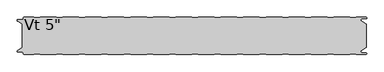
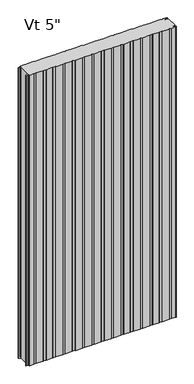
"""IFC4 building model written with IfcOpenShell, lengths in millimetres: plate geometry."""

from ifc_helpers import new_model, si_unit, frame, origin, place, context, project, spatial, polyline, circle_curve, source, transform, mapped, element, save
from ifc_brep_helpers import plane_surface, cylinder_surface, revolved_surface, advanced_brep


def plate_b4f12861(model_context):
    return source(origin(), model_context, "Body", "AdvancedBrep", [
        advanced_brep(
        [(521.5205195, -124.8088405, 2400.0), (541.3035142, -124.8088405, 2400.0), (542.3760351, -125.9999956, 2400.0), (574.5475652, -125.9999956, 2400.0), (576.5248337, -124.0227271, 2400.0), (576.5248337, -122.9806285, 2400.0), (574.5475652, -121.00336, 2400.0), (560.3591802, -121.00336, 2400.0), (557.7713036, -118.4154835, 2400.0), (557.7713036, -114.0950653, 2400.0), (557.1628365, -113.5060718, 2400.0), (554.7857432, -113.5060718, 2400.0), (554.7857432, -112.5065979, 2400.0), (560.2280123, -112.5065979, 2400.0), (576.2625, -103.2490821, 2400.0), (576.2625, -23.7509179, 2400.0), (560.2280123, -14.4934021, 2400.0), (554.7857432, -14.4934021, 2400.0), (554.7857432, -13.4939282, 2400.0), (557.1628365, -13.4939282, 2400.0), (557.7713036, -12.9049347, 2400.0), (557.7713036, -8.5845165, 2400.0), (560.3591802, -5.99664, 2400.0), (574.5475652, -5.99664, 2400.0), (576.5248337, -4.0193715, 2400.0), (576.5248337, -2.9772729, 2400.0), (574.5475652, -1.0000044, 2400.0), (542.3760351, -1.0000044, 2400.0), (541.3035142, -2.1911595, 2400.0), (521.5205195, -2.1911595, 2400.0), (520.4479947, -1.0, 2400.0), (466.7534187, -1.0, 2400.0), (465.6808939, -2.1911595, 2400.0), (445.8978992, -2.1911595, 2400.0), (444.8253744, -1.0, 2400.0), (391.1307985, -1.0, 2400.0), (390.0582736, -2.1911595, 2400.0), (370.275279, -2.1911595, 2400.0), (369.2027541, -1.0, 2400.0), (315.5081782, -1.0, 2400.0), (314.4356534, -2.1911595, 2400.0), (294.6526587, -2.1911595, 2400.0), (293.5801339, -1.0, 2400.0), (239.885558, -1.0, 2400.0), (238.8130331, -2.1911595, 2400.0), (219.0300384, -2.1911595, 2400.0), (217.9575136, -1.0, 2400.0), (164.2629377, -1.0, 2400.0), (163.1904129, -2.1911595, 2400.0), (143.4074182, -2.1911595, 2400.0), (142.3348933, -1.0, 2400.0), (88.6403174, -1.0, 2400.0), (87.5677926, -2.1911595, 2400.0), (67.7847979, -2.1911595, 2400.0), (66.7122731, -1.0, 2400.0), (13.0176972, -1.0, 2400.0), (11.9451723, -2.1911595, 2400.0), (-7.8378224, -2.1911595, 2400.0), (-8.9103472, -1.0, 2400.0), (-62.6049231, -1.0, 2400.0), (-63.6774479, -2.1911595, 2400.0), (-83.4604426, -2.1911595, 2400.0), (-84.5329675, -1.0, 2400.0), (-138.2275434, -1.0, 2400.0), (-139.3000682, -2.1911595, 2400.0), (-159.0830629, -2.1911595, 2400.0), (-160.1555877, -1.0, 2400.0), (-213.8501636, -1.0, 2400.0), (-214.9226885, -2.1911595, 2400.0), (-234.7056831, -2.1911595, 2400.0), (-235.778208, -1.0, 2400.0), (-289.4727839, -1.0, 2400.0), (-290.5453087, -2.1911595, 2400.0), (-310.3283034, -2.1911595, 2400.0), (-311.4008282, -1.0, 2400.0), (-365.0954042, -1.0, 2400.0), (-366.167929, -2.1911595, 2400.0), (-385.9509237, -2.1911595, 2400.0), (-387.0234485, -1.0, 2400.0), (-440.7180244, -1.0, 2400.0), (-441.7905493, -2.1911595, 2400.0), (-461.5735439, -2.1911595, 2400.0), (-462.6460688, -1.0, 2400.0), (-516.3406447, -1.0, 2400.0), (-517.4131695, -2.1911595, 2400.0), (-537.1961642, -2.1911595, 2400.0), (-538.268689, -1.0000109, 2400.0), (-570.4352761, -1.0000109, 2400.0), (-572.4125501, -2.9772849, 2400.0), (-572.4125501, -5.2691749, 2400.0), (-576.3898173, -9.246442, 2400.0), (-591.9862417, -9.246442, 2400.0), (-592.5741186, -9.8343189, 2400.0), (-592.5741186, -12.9058679, 2400.0), (-591.986242, -13.4937446, 2400.0), (-589.6312064, -13.4937446, 2400.0), (-589.6312064, -14.4937446, 2400.0), (-591.9207851, -14.4937446, 2400.0), (-576.2625, -23.7509179, 2400.0), (-576.2625, -103.2490865, 2400.0), (-591.9207851, -112.5062554, 2400.0), (-589.6312064, -112.5062554, 2400.0), (-589.6312064, -113.5062554, 2400.0), (-591.986242, -113.5062554, 2400.0), (-592.5741186, -114.0941321, 2400.0), (-592.5741186, -117.1656811, 2400.0), (-591.9862417, -117.753558, 2400.0), (-576.3898173, -117.753558, 2400.0), (-572.4125501, -121.7308251, 2400.0), (-572.4125501, -124.0227151, 2400.0), (-570.4352761, -125.9999891, 2400.0), (-538.268689, -125.9999891, 2400.0), (-537.1961642, -124.8088405, 2400.0), (-517.4131695, -124.8088405, 2400.0), (-516.3406447, -126.0, 2400.0), (-462.6460688, -126.0, 2400.0), (-461.5735439, -124.8088405, 2400.0), (-441.7905493, -124.8088405, 2400.0), (-440.7180244, -126.0, 2400.0), (-387.0234485, -126.0, 2400.0), (-385.9509237, -124.8088405, 2400.0), (-366.167929, -124.8088405, 2400.0), (-365.0954042, -126.0, 2400.0), (-311.4008282, -126.0, 2400.0), (-310.3283034, -124.8088405, 2400.0), (-290.5453087, -124.8088405, 2400.0), (-289.4727839, -126.0, 2400.0), (-235.778208, -126.0, 2400.0), (-234.7056831, -124.8088405, 2400.0), (-214.9226885, -124.8088405, 2400.0), (-213.8501636, -126.0, 2400.0), (-160.1555877, -126.0, 2400.0), (-159.0830629, -124.8088405, 2400.0), (-139.3000682, -124.8088405, 2400.0), (-138.2275434, -126.0, 2400.0), (-84.5329675, -126.0, 2400.0), (-83.4604426, -124.8088405, 2400.0), (-63.6774479, -124.8088405, 2400.0), (-62.6049231, -126.0, 2400.0), (-8.9103472, -126.0, 2400.0), (-7.8378224, -124.8088405, 2400.0), (11.9451723, -124.8088405, 2400.0), (13.0176972, -126.0, 2400.0), (66.7122731, -126.0, 2400.0), (67.7847979, -124.8088405, 2400.0), (87.5677926, -124.8088405, 2400.0), (88.6403174, -126.0, 2400.0), (142.3348933, -126.0, 2400.0), (143.4074182, -124.8088405, 2400.0), (163.1904129, -124.8088405, 2400.0), (164.2629377, -126.0, 2400.0), (217.9575136, -126.0, 2400.0), (219.0300384, -124.8088405, 2400.0), (238.8130331, -124.8088405, 2400.0), (239.885558, -126.0, 2400.0), (293.5801339, -126.0, 2400.0), (294.6526587, -124.8088405, 2400.0), (314.4356534, -124.8088405, 2400.0), (315.5081782, -126.0, 2400.0), (369.2027541, -126.0, 2400.0), (370.275279, -124.8088405, 2400.0), (390.0582736, -124.8088405, 2400.0), (391.1307985, -126.0, 2400.0), (444.8253744, -126.0, 2400.0), (445.8978992, -124.8088405, 2400.0), (465.6808939, -124.8088405, 2400.0), (466.7534187, -126.0, 2400.0), (520.4479947, -126.0, 2400.0), (521.5205195, -124.8088405, 0.0), (520.4479947, -126.0, 0.0), (466.7534187, -126.0, 0.0), (465.6808939, -124.8088405, 0.0), (445.8978992, -124.8088405, 0.0), (444.8253744, -126.0, 0.0), (391.1307985, -126.0, 0.0), (390.0582736, -124.8088405, 0.0), (370.275279, -124.8088405, 0.0), (369.2027541, -126.0, 0.0), (315.5081782, -126.0, 0.0), (314.4356534, -124.8088405, 0.0), (294.6526587, -124.8088405, 0.0), (293.5801339, -126.0, 0.0), (239.885558, -126.0, 0.0), (238.8130331, -124.8088405, 0.0), (219.0300384, -124.8088405, 0.0), (217.9575136, -126.0, 0.0), (164.2629377, -126.0, 0.0), (163.1904129, -124.8088405, 0.0), (143.4074182, -124.8088405, 0.0), (142.3348933, -126.0, 0.0), (88.6403174, -126.0, 0.0), (87.5677926, -124.8088405, 0.0), (67.7847979, -124.8088405, 0.0), (66.7122731, -126.0, 0.0), (13.0176972, -126.0, 0.0), (11.9451723, -124.8088405, 0.0), (-7.8378224, -124.8088405, 0.0), (-8.9103472, -126.0, 0.0), (-62.6049231, -126.0, 0.0), (-63.6774479, -124.8088405, 0.0), (-83.4604426, -124.8088405, 0.0), (-84.5329675, -126.0, 0.0), (-138.2275434, -126.0, 0.0), (-139.3000682, -124.8088405, 0.0), (-159.0830629, -124.8088405, 0.0), (-160.1555877, -126.0, 0.0), (-213.8501636, -126.0, 0.0), (-214.9226885, -124.8088405, 0.0), (-234.7056831, -124.8088405, 0.0), (-235.778208, -126.0, 0.0), (-289.4727839, -126.0, 0.0), (-290.5453087, -124.8088405, 0.0), (-310.3283034, -124.8088405, 0.0), (-311.4008282, -126.0, 0.0), (-365.0954042, -126.0, 0.0), (-366.167929, -124.8088405, 0.0), (-385.9509237, -124.8088405, 0.0), (-387.0234485, -126.0, 0.0), (-440.7180244, -126.0, 0.0), (-441.7905493, -124.8088405, 0.0), (-461.5735439, -124.8088405, 0.0), (-462.6460688, -126.0, 0.0), (-516.3406447, -126.0, 0.0), (-517.4131695, -124.8088405, 0.0), (-537.1961642, -124.8088405, 0.0), (-538.268689, -125.9999891, 0.0), (-570.4352761, -125.9999891, 0.0), (-572.4125501, -124.0227151, 0.0), (-572.4125501, -121.7308251, 0.0), (-576.3898173, -117.753558, 0.0), (-591.9862417, -117.753558, 0.0), (-592.5741186, -117.1656811, 0.0), (-592.5741186, -114.0941321, 0.0), (-591.986242, -113.5062554, 0.0), (-589.6312064, -113.5062554, 0.0), (-589.6312064, -112.5062554, 0.0), (-591.9207851, -112.5062554, 0.0), (-576.2625, -103.2490821, 0.0), (-576.2625, -23.7509179, 0.0), (-591.9207851, -14.4937446, 0.0), (-589.6312064, -14.4937446, 0.0), (-589.6312064, -13.4937446, 0.0), (-591.986242, -13.4937446, 0.0), (-592.5741186, -12.9058679, 0.0), (-592.5741186, -9.8343189, 0.0), (-591.9862417, -9.246442, 0.0), (-576.3898173, -9.246442, 0.0), (-572.4125501, -5.2691749, 0.0), (-572.4125501, -2.9772849, 0.0), (-570.4352761, -1.0000109, 0.0), (-538.268689, -1.0000109, 0.0), (-537.1961642, -2.1911595, 0.0), (-517.4131695, -2.1911595, 0.0), (-516.3406447, -1.0, 0.0), (-462.6460688, -1.0, 0.0), (-461.5735439, -2.1911595, 0.0), (-441.7905493, -2.1911595, 0.0), (-440.7180244, -1.0, 0.0), (-387.0234485, -1.0, 0.0), (-385.9509237, -2.1911595, 0.0), (-366.167929, -2.1911595, 0.0), (-365.0954042, -1.0, 0.0), (-311.4008282, -1.0, 0.0), (-310.3283034, -2.1911595, 0.0), (-290.5453087, -2.1911595, 0.0), (-289.4727839, -1.0, 0.0), (-235.778208, -1.0, 0.0), (-234.7056831, -2.1911595, 0.0), (-214.9226885, -2.1911595, 0.0), (-213.8501636, -1.0, 0.0), (-160.1555877, -1.0, 0.0), (-159.0830629, -2.1911595, 0.0), (-139.3000682, -2.1911595, 0.0), (-138.2275434, -1.0, 0.0), (-84.5329675, -1.0, 0.0), (-83.4604426, -2.1911595, 0.0), (-63.6774479, -2.1911595, 0.0), (-62.6049231, -1.0, 0.0), (-8.9103472, -1.0, 0.0), (-7.8378224, -2.1911595, 0.0), (11.9451723, -2.1911595, 0.0), (13.0176972, -1.0, 0.0), (66.7122731, -1.0, 0.0), (67.7847979, -2.1911595, 0.0), (87.5677926, -2.1911595, 0.0), (88.6403174, -1.0, 0.0), (142.3348933, -1.0, 0.0), (143.4074182, -2.1911595, 0.0), (163.1904129, -2.1911595, 0.0), (164.2629377, -1.0, 0.0), (217.9575136, -1.0, 0.0), (219.0300384, -2.1911595, 0.0), (238.8130331, -2.1911595, 0.0), (239.885558, -1.0, 0.0), (293.5801339, -1.0, 0.0), (294.6526587, -2.1911595, 0.0), (314.4356534, -2.1911595, 0.0), (315.5081782, -1.0, 0.0), (369.2027541, -1.0, 0.0), (370.275279, -2.1911595, 0.0), (390.0582736, -2.1911595, 0.0), (391.1307985, -1.0, 0.0), (444.8253744, -1.0, 0.0), (445.8978992, -2.1911595, 0.0), (465.6808939, -2.1911595, 0.0), (466.7534187, -1.0, 0.0), (520.4479947, -1.0, 0.0), (521.5205195, -2.1911595, 0.0), (541.3035142, -2.1911595, 0.0), (542.3760351, -1.0000044, 0.0), (574.5475652, -1.0000044, 0.0), (576.5248337, -2.9772729, 0.0), (576.5248337, -4.0193715, 0.0), (574.5475652, -5.99664, 0.0), (560.3591802, -5.99664, 0.0), (557.7713036, -8.5845165, 0.0), (557.7713036, -12.9049347, 0.0), (557.1628365, -13.4939282, 0.0), (554.7857432, -13.4939282, 0.0), (554.7857432, -14.4934021, 0.0), (560.2280123, -14.4934021, 0.0), (576.2625, -23.7509179, 0.0), (576.2625, -103.2490865, 0.0), (560.2280123, -112.5065979, 0.0), (554.7857432, -112.5065979, 0.0), (554.7857432, -113.5060718, 0.0), (557.1628365, -113.5060718, 0.0), (557.7713036, -114.0950653, 0.0), (557.7713036, -118.4154835, 0.0), (560.3591802, -121.00336, 0.0), (574.5475652, -121.00336, 0.0), (576.5248337, -122.9806285, 0.0), (576.5248337, -124.0227271, 0.0), (574.5475652, -125.9999956, 0.0), (542.3760351, -125.9999956, 0.0), (541.3035142, -124.8088405, 0.0)],
        [
            (0, 1),
            (1, 2),
            (2, 3),
            (3, 4, circle_curve(frame((574.5475652, -124.0227271, 2400.0), z_axis=(0.0, 0.0, 1.0), x_axis=(-1.0, 0.0, 0.0)), 1.9772685)),
            (4, 5),
            (5, 6, circle_curve(frame((574.5475652, -122.9806285, 2400.0), z_axis=(0.0, 0.0, 1.0), x_axis=(-1.0, 0.0, 0.0)), 1.9772685)),
            (6, 7),
            (7, 8, circle_curve(frame((560.3591802, -118.4154835, 2400.0), z_axis=(0.0, 0.0, -1.0), x_axis=(-1.0, 0.0, 0.0)), 2.5878765)),
            (8, 9),
            (9, 10, circle_curve(frame((557.1819985, -114.0950653, 2400.0), z_axis=(0.0, 0.0, 1.0), x_axis=(-1.0, 0.0, 0.0)), 0.5893051)),
            (10, 11),
            (11, 12),
            (12, 13),
            (13, 14),
            (14, 15),
            (15, 16),
            (16, 17),
            (17, 18),
            (18, 19),
            (19, 20, circle_curve(frame((557.1819985, -12.9049347, 2400.0), z_axis=(0.0, 0.0, 1.0), x_axis=(0.0, 1.0, 0.0)), 0.5893051)),
            (20, 21),
            (21, 22, circle_curve(frame((560.3591802, -8.5845165, 2400.0), z_axis=(0.0, 0.0, -1.0), x_axis=(0.0, 1.0, 0.0)), 2.5878765)),
            (22, 23),
            (23, 24, circle_curve(frame((574.5475652, -4.0193715, 2400.0), z_axis=(0.0, 0.0, 1.0), x_axis=(0.0, 1.0, 0.0)), 1.9772685)),
            (24, 25),
            (25, 26, circle_curve(frame((574.5475652, -2.9772729, 2400.0), z_axis=(0.0, 0.0, 1.0), x_axis=(0.0, 1.0, 0.0)), 1.9772685)),
            (26, 27),
            (27, 28),
            (28, 29),
            (29, 30),
            (30, 31),
            (31, 32),
            (32, 33),
            (33, 34),
            (34, 35),
            (35, 36),
            (36, 37),
            (37, 38),
            (38, 39),
            (39, 40),
            (40, 41),
            (41, 42),
            (42, 43),
            (43, 44),
            (44, 45),
            (45, 46),
            (46, 47),
            (47, 48),
            (48, 49),
            (49, 50),
            (50, 51),
            (51, 52),
            (52, 53),
            (53, 54),
            (54, 55),
            (55, 56),
            (56, 57),
            (57, 58),
            (58, 59),
            (59, 60),
            (60, 61),
            (61, 62),
            (62, 63),
            (63, 64),
            (64, 65),
            (65, 66),
            (66, 67),
            (67, 68),
            (68, 69),
            (69, 70),
            (70, 71),
            (71, 72),
            (72, 73),
            (73, 74),
            (74, 75),
            (75, 76),
            (76, 77),
            (77, 78),
            (78, 79),
            (79, 80),
            (80, 81),
            (81, 82),
            (82, 83),
            (83, 84),
            (84, 85),
            (85, 86),
            (86, 87),
            (87, 88, circle_curve(frame((-570.4352761, -2.9772849, 2400.0), z_axis=(0.0, 0.0, 1.0), x_axis=(0.0, 1.0, 0.0)), 1.977274)),
            (88, 89),
            (89, 90, circle_curve(frame((-576.3898173, -5.2691749, 2400.0), z_axis=(0.0, 0.0, -1.0), x_axis=(0.0, 1.0, 0.0)), 3.9772671)),
            (90, 91),
            (91, 92, circle_curve(frame((-591.9862417, -9.8343189, 2400.0), z_axis=(0.0, 0.0, 1.0), x_axis=(0.0, 1.0, 0.0)), 0.5878769)),
            (92, 93),
            (93, 94, circle_curve(frame((-591.986242, -12.9058679, 2400.0), z_axis=(0.0, 0.0, 1.0), x_axis=(0.0, 1.0, 0.0)), 0.5878766)),
            (94, 95),
            (95, 96),
            (96, 97),
            (97, 98),
            (98, 99),
            (99, 100),
            (100, 101),
            (101, 102),
            (102, 103),
            (103, 104, circle_curve(frame((-591.986242, -114.0941321, 2400.0), z_axis=(0.0, 0.0, 1.0), x_axis=(-1.0, 0.0, 0.0)), 0.5878766)),
            (104, 105),
            (105, 106, circle_curve(frame((-591.9862417, -117.1656811, 2400.0), z_axis=(0.0, 0.0, 1.0), x_axis=(-1.0, 0.0, 0.0)), 0.5878769)),
            (106, 107),
            (107, 108, circle_curve(frame((-576.3898173, -121.7308251, 2400.0), z_axis=(0.0, 0.0, -1.0), x_axis=(-1.0, 0.0, 0.0)), 3.9772671)),
            (108, 109),
            (109, 110, circle_curve(frame((-570.4352761, -124.0227151, 2400.0), z_axis=(0.0, 0.0, 1.0), x_axis=(-1.0, 0.0, 0.0)), 1.977274)),
            (110, 111),
            (111, 112),
            (112, 113),
            (113, 114),
            (114, 115),
            (115, 116),
            (116, 117),
            (117, 118),
            (118, 119),
            (119, 120),
            (120, 121),
            (121, 122),
            (122, 123),
            (123, 124),
            (124, 125),
            (125, 126),
            (126, 127),
            (127, 128),
            (128, 129),
            (129, 130),
            (130, 131),
            (131, 132),
            (132, 133),
            (133, 134),
            (134, 135),
            (135, 136),
            (136, 137),
            (137, 138),
            (138, 139),
            (139, 140),
            (140, 141),
            (141, 142),
            (142, 143),
            (143, 144),
            (144, 145),
            (145, 146),
            (146, 147),
            (147, 148),
            (148, 149),
            (149, 150),
            (150, 151),
            (151, 152),
            (152, 153),
            (153, 154),
            (154, 155),
            (155, 156),
            (156, 157),
            (157, 158),
            (158, 159),
            (159, 160),
            (160, 161),
            (161, 162),
            (162, 163),
            (163, 164),
            (164, 165),
            (165, 166),
            (166, 167),
            (167, 0),
            (168, 169),
            (169, 170),
            (170, 171),
            (171, 172),
            (172, 173),
            (173, 174),
            (174, 175),
            (175, 176),
            (176, 177),
            (177, 178),
            (178, 179),
            (179, 180),
            (180, 181),
            (181, 182),
            (182, 183),
            (183, 184),
            (184, 185),
            (185, 186),
            (186, 187),
            (187, 188),
            (188, 189),
            (189, 190),
            (190, 191),
            (191, 192),
            (192, 193),
            (193, 194),
            (194, 195),
            (195, 196),
            (196, 197),
            (197, 198),
            (198, 199),
            (199, 200),
            (200, 201),
            (201, 202),
            (202, 203),
            (203, 204),
            (204, 205),
            (205, 206),
            (206, 207),
            (207, 208),
            (208, 209),
            (209, 210),
            (210, 211),
            (211, 212),
            (212, 213),
            (213, 214),
            (214, 215),
            (215, 216),
            (216, 217),
            (217, 218),
            (218, 219),
            (219, 220),
            (220, 221),
            (221, 222),
            (222, 223),
            (223, 224),
            (224, 225),
            (225, 226),
            (226, 227, circle_curve(frame((-570.4352761, -124.0227151, 0.0), z_axis=(0.0, 0.0, -1.0), x_axis=(-1.0, 0.0, 0.0)), 1.977274)),
            (227, 228),
            (228, 229, circle_curve(frame((-576.3898173, -121.7308251, 0.0), z_axis=(0.0, 0.0, 1.0), x_axis=(-1.0, 0.0, 0.0)), 3.9772671)),
            (229, 230),
            (230, 231, circle_curve(frame((-591.9862417, -117.1656811, 0.0), z_axis=(0.0, 0.0, -1.0), x_axis=(-1.0, 0.0, 0.0)), 0.5878769)),
            (231, 232),
            (232, 233, circle_curve(frame((-591.986242, -114.0941321, 0.0), z_axis=(0.0, 0.0, -1.0), x_axis=(-1.0, 0.0, 0.0)), 0.5878766)),
            (233, 234),
            (234, 235),
            (235, 236),
            (236, 237),
            (237, 238),
            (238, 239),
            (239, 240),
            (240, 241),
            (241, 242),
            (242, 243, circle_curve(frame((-591.986242, -12.9058679, 0.0), z_axis=(0.0, 0.0, -1.0), x_axis=(0.0, 1.0, 0.0)), 0.5878766)),
            (243, 244),
            (244, 245, circle_curve(frame((-591.9862417, -9.8343189, 0.0), z_axis=(0.0, 0.0, -1.0), x_axis=(0.0, 1.0, 0.0)), 0.5878769)),
            (245, 246),
            (246, 247, circle_curve(frame((-576.3898173, -5.2691749, 0.0), z_axis=(0.0, 0.0, 1.0), x_axis=(0.0, 1.0, 0.0)), 3.9772671)),
            (247, 248),
            (248, 249, circle_curve(frame((-570.4352761, -2.9772849, 0.0), z_axis=(0.0, 0.0, -1.0), x_axis=(0.0, 1.0, 0.0)), 1.977274)),
            (249, 250),
            (250, 251),
            (251, 252),
            (252, 253),
            (253, 254),
            (254, 255),
            (255, 256),
            (256, 257),
            (257, 258),
            (258, 259),
            (259, 260),
            (260, 261),
            (261, 262),
            (262, 263),
            (263, 264),
            (264, 265),
            (265, 266),
            (266, 267),
            (267, 268),
            (268, 269),
            (269, 270),
            (270, 271),
            (271, 272),
            (272, 273),
            (273, 274),
            (274, 275),
            (275, 276),
            (276, 277),
            (277, 278),
            (278, 279),
            (279, 280),
            (280, 281),
            (281, 282),
            (282, 283),
            (283, 284),
            (284, 285),
            (285, 286),
            (286, 287),
            (287, 288),
            (288, 289),
            (289, 290),
            (290, 291),
            (291, 292),
            (292, 293),
            (293, 294),
            (294, 295),
            (295, 296),
            (296, 297),
            (297, 298),
            (298, 299),
            (299, 300),
            (300, 301),
            (301, 302),
            (302, 303),
            (303, 304),
            (304, 305),
            (305, 306),
            (306, 307),
            (307, 308),
            (308, 309),
            (309, 310),
            (310, 311, circle_curve(frame((574.5475652, -2.9772729, 0.0), z_axis=(0.0, 0.0, -1.0), x_axis=(0.0, 1.0, 0.0)), 1.9772685)),
            (311, 312),
            (312, 313, circle_curve(frame((574.5475652, -4.0193715, 0.0), z_axis=(0.0, 0.0, -1.0), x_axis=(0.0, 1.0, 0.0)), 1.9772685)),
            (313, 314),
            (314, 315, circle_curve(frame((560.3591802, -8.5845165, 0.0), z_axis=(0.0, 0.0, 1.0), x_axis=(0.0, 1.0, 0.0)), 2.5878765)),
            (315, 316),
            (316, 317, circle_curve(frame((557.1819985, -12.9049347, 0.0), z_axis=(0.0, 0.0, -1.0), x_axis=(0.0, 1.0, 0.0)), 0.5893051)),
            (317, 318),
            (318, 319),
            (319, 320),
            (320, 321),
            (321, 322),
            (322, 323),
            (323, 324),
            (324, 325),
            (325, 326),
            (326, 327, circle_curve(frame((557.1819985, -114.0950653, 0.0), z_axis=(0.0, 0.0, -1.0), x_axis=(-1.0, 0.0, 0.0)), 0.5893051)),
            (327, 328),
            (328, 329, circle_curve(frame((560.3591802, -118.4154835, 0.0), z_axis=(0.0, 0.0, 1.0), x_axis=(-1.0, 0.0, 0.0)), 2.5878765)),
            (329, 330),
            (330, 331, circle_curve(frame((574.5475652, -122.9806285, 0.0), z_axis=(0.0, 0.0, -1.0), x_axis=(-1.0, 0.0, 0.0)), 1.9772685)),
            (331, 332),
            (332, 333, circle_curve(frame((574.5475652, -124.0227271, 0.0), z_axis=(0.0, 0.0, -1.0), x_axis=(-1.0, 0.0, 0.0)), 1.9772685)),
            (333, 334),
            (334, 335),
            (335, 168),
            (98, 238),
            (237, 99),
            (14, 322),
            (321, 15),
            (28, 308),
            (307, 29),
            (27, 309),
            (26, 310),
            (25, 311),
            (24, 312),
            (23, 313),
            (22, 314),
            (21, 315),
            (20, 316),
            (19, 317),
            (18, 318),
            (17, 319),
            (16, 320),
            (97, 239),
            (96, 240),
            (95, 241),
            (94, 242),
            (93, 243),
            (92, 244),
            (91, 245),
            (90, 246),
            (89, 247),
            (88, 248),
            (87, 249),
            (86, 250),
            (85, 251),
            (84, 252),
            (83, 253),
            (82, 254),
            (81, 255),
            (80, 256),
            (79, 257),
            (78, 258),
            (77, 259),
            (76, 260),
            (75, 261),
            (74, 262),
            (73, 263),
            (72, 264),
            (71, 265),
            (70, 266),
            (69, 267),
            (68, 268),
            (67, 269),
            (66, 270),
            (65, 271),
            (64, 272),
            (63, 273),
            (62, 274),
            (61, 275),
            (60, 276),
            (59, 277),
            (58, 278),
            (57, 279),
            (56, 280),
            (55, 281),
            (54, 282),
            (53, 283),
            (52, 284),
            (51, 285),
            (50, 286),
            (49, 287),
            (48, 288),
            (47, 289),
            (46, 290),
            (45, 291),
            (44, 292),
            (43, 293),
            (42, 294),
            (41, 295),
            (40, 296),
            (39, 297),
            (38, 298),
            (37, 299),
            (36, 300),
            (35, 301),
            (34, 302),
            (33, 303),
            (32, 304),
            (31, 305),
            (30, 306),
            (167, 169),
            (168, 0),
            (166, 170),
            (165, 171),
            (164, 172),
            (163, 173),
            (162, 174),
            (161, 175),
            (160, 176),
            (159, 177),
            (158, 178),
            (157, 179),
            (156, 180),
            (155, 181),
            (154, 182),
            (153, 183),
            (152, 184),
            (151, 185),
            (150, 186),
            (149, 187),
            (148, 188),
            (147, 189),
            (146, 190),
            (145, 191),
            (144, 192),
            (143, 193),
            (142, 194),
            (141, 195),
            (140, 196),
            (139, 197),
            (138, 198),
            (137, 199),
            (136, 200),
            (135, 201),
            (134, 202),
            (133, 203),
            (132, 204),
            (131, 205),
            (130, 206),
            (129, 207),
            (128, 208),
            (127, 209),
            (126, 210),
            (125, 211),
            (124, 212),
            (123, 213),
            (122, 214),
            (121, 215),
            (120, 216),
            (119, 217),
            (118, 218),
            (117, 219),
            (116, 220),
            (115, 221),
            (114, 222),
            (113, 223),
            (112, 224),
            (111, 225),
            (110, 226),
            (109, 227),
            (108, 228),
            (107, 229),
            (106, 230),
            (105, 231),
            (104, 232),
            (103, 233),
            (102, 234),
            (101, 235),
            (100, 236),
            (13, 323),
            (12, 324),
            (11, 325),
            (10, 326),
            (9, 327),
            (8, 328),
            (7, 329),
            (6, 330),
            (5, 331),
            (4, 332),
            (3, 333),
            (2, 334),
            (1, 335),
        ],
        [
            plane_surface(frame((0.0, -126.0, 2400.0), z_axis=(0.0, 0.0, 1.0), x_axis=(0.0, -1.0, 0.0))),
            plane_surface(frame((0.0, -126.0, 0.0), z_axis=(0.0, 0.0, -1.0), x_axis=(0.0, -1.0, 0.0))),
            plane_surface(frame((-576.2625, -103.2490865, 2400.0), z_axis=(-1.0, 0.0, 0.0), x_axis=(0.0, 0.0, -1.0))),
            plane_surface(frame((576.2625, -23.7509179, 2400.0), z_axis=(1.0, 0.0, 0.0), x_axis=(0.0, 0.0, -1.0))),
            plane_surface(frame((521.5205195, -2.1911595, 2400.0), z_axis=(0.0, 1.0, 0.0), x_axis=(0.0, 0.0, -1.0))),
            plane_surface(frame((541.3035142, -2.1911595, 2400.0), z_axis=(-0.7431448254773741, 0.6691306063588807, 0.0), x_axis=(0.0, 0.0, -1.0))),
            plane_surface(frame((542.3760351, -1.0000044, 2400.0), z_axis=(0.0, 1.0, 0.0), x_axis=(0.0, 0.0, -1.0))),
            cylinder_surface(frame((574.5475652, -2.9772729, 2400.0), z_axis=(0.0, 0.0, 1.0), x_axis=(0.0, 1.0, 0.0)), 1.9772685),
            plane_surface(frame((576.5248337, -2.9772729, 2400.0), z_axis=(1.0, 0.0, 0.0), x_axis=(0.0, 0.0, -1.0))),
            cylinder_surface(frame((574.5475652, -4.0193715, 2400.0), z_axis=(0.0, 0.0, 1.0), x_axis=(0.0, 1.0, 0.0)), 1.9772685),
            plane_surface(frame((574.5475652, -5.99664, 2400.0), z_axis=(0.0, -1.0, 0.0), x_axis=(0.0, 0.0, -1.0))),
            revolved_surface(polyline([(560.3591802, -5.996639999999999, 0.0), (560.3591802, -5.996639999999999, 2400.0)]), (560.3591802, -8.5845165, 2400.0), (0.0, 0.0, -1.0)),
            plane_surface(frame((557.7713036, -8.5845165, 2400.0), z_axis=(1.0, 0.0, 0.0), x_axis=(0.0, 0.0, -1.0))),
            cylinder_surface(frame((557.1819985, -12.9049347, 2400.0), z_axis=(0.0, 0.0, 1.0), x_axis=(0.0, 1.0, 0.0)), 0.5893051),
            plane_surface(frame((557.1628365, -13.4939282, 2400.0), z_axis=(0.0, -1.0, 0.0), x_axis=(0.0, 0.0, -1.0))),
            plane_surface(frame((554.7857432, -13.4939282, 2400.0), z_axis=(1.0, 0.0, 0.0), x_axis=(0.0, 0.0, -1.0))),
            plane_surface(frame((554.7857432, -14.4934021, 2400.0), z_axis=(0.0, 1.0, 0.0), x_axis=(0.0, 0.0, -1.0))),
            plane_surface(frame((560.2280123, -14.4934021, 2400.0), z_axis=(0.5000000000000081, 0.866025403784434, 0.0), x_axis=(0.0, 0.0, -1.0))),
            plane_surface(frame((-576.2625, -23.7509179, 2400.0), z_axis=(-0.5089147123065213, -0.860816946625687, 0.0), x_axis=(0.0, 0.0, -1.0))),
            plane_surface(frame((-591.9207851, -14.4937446, 2400.0), z_axis=(0.0, 1.0, 0.0), x_axis=(0.0, 0.0, -1.0))),
            plane_surface(frame((-589.6312064, -14.4937446, 2400.0), z_axis=(-1.0, 0.0, 0.0), x_axis=(0.0, 0.0, -1.0))),
            plane_surface(frame((-589.6312064, -13.4937446, 2400.0), z_axis=(0.0, -1.0, 0.0), x_axis=(0.0, 0.0, -1.0))),
            cylinder_surface(frame((-591.986242, -12.9058679, 2400.0), z_axis=(0.0, 0.0, 1.0), x_axis=(0.0, 1.0, 0.0)), 0.5878766),
            plane_surface(frame((-592.5741186, -12.9058679, 2400.0), z_axis=(-1.0, 0.0, 0.0), x_axis=(0.0, 0.0, -1.0))),
            cylinder_surface(frame((-591.9862417, -9.8343189, 2400.0), z_axis=(0.0, 0.0, 1.0), x_axis=(0.0, 1.0, 0.0)), 0.5878769),
            plane_surface(frame((-591.9862417, -9.246442, 2400.0), z_axis=(0.0, 1.0, 0.0), x_axis=(0.0, 0.0, -1.0))),
            revolved_surface(polyline([(-576.3898173, -1.2919078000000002, 0.0), (-576.3898173, -1.2919078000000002, 2400.0)]), (-576.3898173, -5.2691749, 2400.0), (0.0, 0.0, -1.0)),
            plane_surface(frame((-572.4125501, -5.2691749, 2400.0), z_axis=(-1.0, 0.0, 0.0), x_axis=(0.0, 0.0, -1.0))),
            cylinder_surface(frame((-570.4352761, -2.9772849, 2400.0), z_axis=(0.0, 0.0, 1.0), x_axis=(0.0, 1.0, 0.0)), 1.977274),
            plane_surface(frame((-570.4352761, -1.0000109, 2400.0), z_axis=(0.0, 1.0, 0.0), x_axis=(0.0, 0.0, -1.0))),
            plane_surface(frame((-538.268689, -1.0000109, 2400.0), z_axis=(0.7431417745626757, 0.669133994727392, 0.0), x_axis=(0.0, 0.0, -1.0))),
            plane_surface(frame((-537.1961642, -2.1911595, 2400.0), z_axis=(0.0, 1.0, 0.0), x_axis=(0.0, 0.0, -1.0))),
            plane_surface(frame((-517.4131695, -2.1911595, 2400.0), z_axis=(-0.7431448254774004, 0.6691306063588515, 0.0), x_axis=(0.0, 0.0, -1.0))),
            plane_surface(frame((-516.3406447, -1.0, 2400.0), z_axis=(0.0, 1.0, 0.0), x_axis=(0.0, 0.0, -1.0))),
            plane_surface(frame((-462.6460688, -1.0, 2400.0), z_axis=(0.7431448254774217, 0.6691306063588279, 0.0), x_axis=(0.0, 0.0, -1.0))),
            plane_surface(frame((-461.5735439, -2.1911595, 2400.0), z_axis=(0.0, 1.0, 0.0), x_axis=(0.0, 0.0, -1.0))),
            plane_surface(frame((-441.7905493, -2.1911595, 2400.0), z_axis=(-0.7431448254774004, 0.6691306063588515, 0.0), x_axis=(0.0, 0.0, -1.0))),
            plane_surface(frame((-440.7180244, -1.0, 2400.0), z_axis=(0.0, 1.0, 0.0), x_axis=(0.0, 0.0, -1.0))),
            plane_surface(frame((-387.0234485, -1.0, 2400.0), z_axis=(0.7431448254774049, 0.6691306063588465, 0.0), x_axis=(0.0, 0.0, -1.0))),
            plane_surface(frame((-385.9509237, -2.1911595, 2400.0), z_axis=(0.0, 1.0, 0.0), x_axis=(0.0, 0.0, -1.0))),
            plane_surface(frame((-366.167929, -2.1911595, 2400.0), z_axis=(-0.7431448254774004, 0.6691306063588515, 0.0), x_axis=(0.0, 0.0, -1.0))),
            plane_surface(frame((-365.0954042, -1.0, 2400.0), z_axis=(0.0, 1.0, 0.0), x_axis=(0.0, 0.0, -1.0))),
            plane_surface(frame((-311.4008282, -1.0, 2400.0), z_axis=(0.7431448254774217, 0.6691306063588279, 0.0), x_axis=(0.0, 0.0, -1.0))),
            plane_surface(frame((-310.3283034, -2.1911595, 2400.0), z_axis=(0.0, 1.0, 0.0), x_axis=(0.0, 0.0, -1.0))),
            plane_surface(frame((-290.5453087, -2.1911595, 2400.0), z_axis=(-0.7431448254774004, 0.6691306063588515, 0.0), x_axis=(0.0, 0.0, -1.0))),
            plane_surface(frame((-289.4727839, -1.0, 2400.0), z_axis=(0.0, 1.0, 0.0), x_axis=(0.0, 0.0, -1.0))),
            plane_surface(frame((-235.778208, -1.0, 2400.0), z_axis=(0.7431448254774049, 0.6691306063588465, 0.0), x_axis=(0.0, 0.0, -1.0))),
            plane_surface(frame((-234.7056831, -2.1911595, 2400.0), z_axis=(0.0, 1.0, 0.0), x_axis=(0.0, 0.0, -1.0))),
            plane_surface(frame((-214.9226885, -2.1911595, 2400.0), z_axis=(-0.7431448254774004, 0.6691306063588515, 0.0), x_axis=(0.0, 0.0, -1.0))),
            plane_surface(frame((-213.8501636, -1.0, 2400.0), z_axis=(0.0, 1.0, 0.0), x_axis=(0.0, 0.0, -1.0))),
            plane_surface(frame((-160.1555877, -1.0, 2400.0), z_axis=(0.7431448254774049, 0.6691306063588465, 0.0), x_axis=(0.0, 0.0, -1.0))),
            plane_surface(frame((-159.0830629, -2.1911595, 2400.0), z_axis=(0.0, 1.0, 0.0), x_axis=(0.0, 0.0, -1.0))),
            plane_surface(frame((-139.3000682, -2.1911595, 2400.0), z_axis=(-0.7431448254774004, 0.6691306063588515, 0.0), x_axis=(0.0, 0.0, -1.0))),
            plane_surface(frame((-138.2275434, -1.0, 2400.0), z_axis=(0.0, 1.0, 0.0), x_axis=(0.0, 0.0, -1.0))),
            plane_surface(frame((-84.5329675, -1.0, 2400.0), z_axis=(0.7431448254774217, 0.6691306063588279, 0.0), x_axis=(0.0, 0.0, -1.0))),
            plane_surface(frame((-83.4604426, -2.1911595, 2400.0), z_axis=(0.0, 1.0, 0.0), x_axis=(0.0, 0.0, -1.0))),
            plane_surface(frame((-63.6774479, -2.1911595, 2400.0), z_axis=(-0.7431448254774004, 0.6691306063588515, 0.0), x_axis=(0.0, 0.0, -1.0))),
            plane_surface(frame((-62.6049231, -1.0, 2400.0), z_axis=(0.0, 1.0, 0.0), x_axis=(0.0, 0.0, -1.0))),
            plane_surface(frame((-8.9103472, -1.0, 2400.0), z_axis=(0.7431448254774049, 0.6691306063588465, 0.0), x_axis=(0.0, 0.0, -1.0))),
            plane_surface(frame((-7.8378224, -2.1911595, 2400.0), z_axis=(0.0, 1.0, 0.0), x_axis=(0.0, 0.0, -1.0))),
            plane_surface(frame((11.9451723, -2.1911595, 2400.0), z_axis=(-0.7431448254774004, 0.6691306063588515, 0.0), x_axis=(0.0, 0.0, -1.0))),
            plane_surface(frame((13.0176972, -1.0, 2400.0), z_axis=(0.0, 1.0, 0.0), x_axis=(0.0, 0.0, -1.0))),
            plane_surface(frame((66.7122731, -1.0, 2400.0), z_axis=(0.7431448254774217, 0.6691306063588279, 0.0), x_axis=(0.0, 0.0, -1.0))),
            plane_surface(frame((67.7847979, -2.1911595, 2400.0), z_axis=(0.0, 1.0, 0.0), x_axis=(0.0, 0.0, -1.0))),
            plane_surface(frame((87.5677926, -2.1911595, 2400.0), z_axis=(-0.7431448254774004, 0.6691306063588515, 0.0), x_axis=(0.0, 0.0, -1.0))),
            plane_surface(frame((88.6403174, -1.0, 2400.0), z_axis=(0.0, 1.0, 0.0), x_axis=(0.0, 0.0, -1.0))),
            plane_surface(frame((142.3348933, -1.0, 2400.0), z_axis=(0.7431448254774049, 0.6691306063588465, 0.0), x_axis=(0.0, 0.0, -1.0))),
            plane_surface(frame((143.4074182, -2.1911595, 2400.0), z_axis=(0.0, 1.0, 0.0), x_axis=(0.0, 0.0, -1.0))),
            plane_surface(frame((163.1904129, -2.1911595, 2400.0), z_axis=(-0.7431448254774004, 0.6691306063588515, 0.0), x_axis=(0.0, 0.0, -1.0))),
            plane_surface(frame((164.2629377, -1.0, 2400.0), z_axis=(0.0, 1.0, 0.0), x_axis=(0.0, 0.0, -1.0))),
            plane_surface(frame((217.9575136, -1.0, 2400.0), z_axis=(0.7431448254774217, 0.6691306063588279, 0.0), x_axis=(0.0, 0.0, -1.0))),
            plane_surface(frame((219.0300384, -2.1911595, 2400.0), z_axis=(0.0, 1.0, 0.0), x_axis=(0.0, 0.0, -1.0))),
            plane_surface(frame((238.8130331, -2.1911595, 2400.0), z_axis=(-0.7431448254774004, 0.6691306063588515, 0.0), x_axis=(0.0, 0.0, -1.0))),
            plane_surface(frame((239.885558, -1.0, 2400.0), z_axis=(0.0, 1.0, 0.0), x_axis=(0.0, 0.0, -1.0))),
            plane_surface(frame((293.5801339, -1.0, 2400.0), z_axis=(0.7431448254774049, 0.6691306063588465, 0.0), x_axis=(0.0, 0.0, -1.0))),
            plane_surface(frame((294.6526587, -2.1911595, 2400.0), z_axis=(0.0, 1.0, 0.0), x_axis=(0.0, 0.0, -1.0))),
            plane_surface(frame((314.4356534, -2.1911595, 2400.0), z_axis=(-0.7431448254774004, 0.6691306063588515, 0.0), x_axis=(0.0, 0.0, -1.0))),
            plane_surface(frame((315.5081782, -1.0, 2400.0), z_axis=(0.0, 1.0, 0.0), x_axis=(0.0, 0.0, -1.0))),
            plane_surface(frame((369.2027541, -1.0, 2400.0), z_axis=(0.7431448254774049, 0.6691306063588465, 0.0), x_axis=(0.0, 0.0, -1.0))),
            plane_surface(frame((370.275279, -2.1911595, 2400.0), z_axis=(0.0, 1.0, 0.0), x_axis=(0.0, 0.0, -1.0))),
            plane_surface(frame((390.0582736, -2.1911595, 2400.0), z_axis=(-0.7431448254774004, 0.6691306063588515, 0.0), x_axis=(0.0, 0.0, -1.0))),
            plane_surface(frame((391.1307985, -1.0, 2400.0), z_axis=(0.0, 1.0, 0.0), x_axis=(0.0, 0.0, -1.0))),
            plane_surface(frame((444.8253744, -1.0, 2400.0), z_axis=(0.7431448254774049, 0.6691306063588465, 0.0), x_axis=(0.0, 0.0, -1.0))),
            plane_surface(frame((445.8978992, -2.1911595, 2400.0), z_axis=(0.0, 1.0, 0.0), x_axis=(0.0, 0.0, -1.0))),
            plane_surface(frame((465.6808939, -2.1911595, 2400.0), z_axis=(-0.7431448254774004, 0.6691306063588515, 0.0), x_axis=(0.0, 0.0, -1.0))),
            plane_surface(frame((466.7534187, -1.0, 2400.0), z_axis=(0.0, 1.0, 0.0), x_axis=(0.0, 0.0, -1.0))),
            plane_surface(frame((520.4479947, -1.0, 2400.0), z_axis=(0.7431448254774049, 0.6691306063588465, 0.0), x_axis=(0.0, 0.0, -1.0))),
            plane_surface(frame((521.5205195, -124.8088405, 2400.0), z_axis=(0.7431448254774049, -0.6691306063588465, 0.0), x_axis=(0.0, 0.0, -1.0))),
            plane_surface(frame((520.4479947, -126.0, 2400.0), z_axis=(0.0, -1.0, 0.0), x_axis=(0.0, 0.0, -1.0))),
            plane_surface(frame((466.7534187, -126.0, 2400.0), z_axis=(-0.7431448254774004, -0.6691306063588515, 0.0), x_axis=(0.0, 0.0, -1.0))),
            plane_surface(frame((465.6808939, -124.8088405, 2400.0), z_axis=(0.0, -1.0, 0.0), x_axis=(0.0, 0.0, -1.0))),
            plane_surface(frame((445.8978992, -124.8088405, 2400.0), z_axis=(0.7431448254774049, -0.6691306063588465, 0.0), x_axis=(0.0, 0.0, -1.0))),
            plane_surface(frame((444.8253744, -126.0, 2400.0), z_axis=(0.0, -1.0, 0.0), x_axis=(0.0, 0.0, -1.0))),
            plane_surface(frame((391.1307985, -126.0, 2400.0), z_axis=(-0.7431448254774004, -0.6691306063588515, 0.0), x_axis=(0.0, 0.0, -1.0))),
            plane_surface(frame((390.0582736, -124.8088405, 2400.0), z_axis=(0.0, -1.0, 0.0), x_axis=(0.0, 0.0, -1.0))),
            plane_surface(frame((370.275279, -124.8088405, 2400.0), z_axis=(0.7431448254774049, -0.6691306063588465, 0.0), x_axis=(0.0, 0.0, -1.0))),
            plane_surface(frame((369.2027541, -126.0, 2400.0), z_axis=(0.0, -1.0, 0.0), x_axis=(0.0, 0.0, -1.0))),
            plane_surface(frame((315.5081782, -126.0, 2400.0), z_axis=(-0.7431448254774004, -0.6691306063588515, 0.0), x_axis=(0.0, 0.0, -1.0))),
            plane_surface(frame((314.4356534, -124.8088405, 2400.0), z_axis=(0.0, -1.0, 0.0), x_axis=(0.0, 0.0, -1.0))),
            plane_surface(frame((294.6526587, -124.8088405, 2400.0), z_axis=(0.7431448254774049, -0.6691306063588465, 0.0), x_axis=(0.0, 0.0, -1.0))),
            plane_surface(frame((293.5801339, -126.0, 2400.0), z_axis=(0.0, -1.0, 0.0), x_axis=(0.0, 0.0, -1.0))),
            plane_surface(frame((239.885558, -126.0, 2400.0), z_axis=(-0.7431448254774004, -0.6691306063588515, 0.0), x_axis=(0.0, 0.0, -1.0))),
            plane_surface(frame((238.8130331, -124.8088405, 2400.0), z_axis=(0.0, -1.0, 0.0), x_axis=(0.0, 0.0, -1.0))),
            plane_surface(frame((219.0300384, -124.8088405, 2400.0), z_axis=(0.7431448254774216, -0.6691306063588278, 0.0), x_axis=(0.0, 0.0, -1.0))),
            plane_surface(frame((217.9575136, -126.0, 2400.0), z_axis=(0.0, -1.0, 0.0), x_axis=(0.0, 0.0, -1.0))),
            plane_surface(frame((164.2629377, -126.0, 2400.0), z_axis=(-0.7431448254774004, -0.6691306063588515, 0.0), x_axis=(0.0, 0.0, -1.0))),
            plane_surface(frame((163.1904129, -124.8088405, 2400.0), z_axis=(0.0, -1.0, 0.0), x_axis=(0.0, 0.0, -1.0))),
            plane_surface(frame((143.4074182, -124.8088405, 2400.0), z_axis=(0.7431448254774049, -0.6691306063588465, 0.0), x_axis=(0.0, 0.0, -1.0))),
            plane_surface(frame((142.3348933, -126.0, 2400.0), z_axis=(0.0, -1.0, 0.0), x_axis=(0.0, 0.0, -1.0))),
            plane_surface(frame((88.6403174, -126.0, 2400.0), z_axis=(-0.7431448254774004, -0.6691306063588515, 0.0), x_axis=(0.0, 0.0, -1.0))),
            plane_surface(frame((87.5677926, -124.8088405, 2400.0), z_axis=(0.0, -1.0, 0.0), x_axis=(0.0, 0.0, -1.0))),
            plane_surface(frame((67.7847979, -124.8088405, 2400.0), z_axis=(0.7431448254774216, -0.6691306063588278, 0.0), x_axis=(0.0, 0.0, -1.0))),
            plane_surface(frame((66.7122731, -126.0, 2400.0), z_axis=(0.0, -1.0, 0.0), x_axis=(0.0, 0.0, -1.0))),
            plane_surface(frame((13.0176972, -126.0, 2400.0), z_axis=(-0.7431448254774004, -0.6691306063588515, 0.0), x_axis=(0.0, 0.0, -1.0))),
            plane_surface(frame((11.9451723, -124.8088405, 2400.0), z_axis=(0.0, -1.0, 0.0), x_axis=(0.0, 0.0, -1.0))),
            plane_surface(frame((-7.8378224, -124.8088405, 2400.0), z_axis=(0.7431448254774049, -0.6691306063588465, 0.0), x_axis=(0.0, 0.0, -1.0))),
            plane_surface(frame((-8.9103472, -126.0, 2400.0), z_axis=(0.0, -1.0, 0.0), x_axis=(0.0, 0.0, -1.0))),
            plane_surface(frame((-62.6049231, -126.0, 2400.0), z_axis=(-0.7431448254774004, -0.6691306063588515, 0.0), x_axis=(0.0, 0.0, -1.0))),
            plane_surface(frame((-63.6774479, -124.8088405, 2400.0), z_axis=(0.0, -1.0, 0.0), x_axis=(0.0, 0.0, -1.0))),
            plane_surface(frame((-83.4604426, -124.8088405, 2400.0), z_axis=(0.7431448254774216, -0.6691306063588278, 0.0), x_axis=(0.0, 0.0, -1.0))),
            plane_surface(frame((-84.5329675, -126.0, 2400.0), z_axis=(0.0, -1.0, 0.0), x_axis=(0.0, 0.0, -1.0))),
            plane_surface(frame((-138.2275434, -126.0, 2400.0), z_axis=(-0.7431448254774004, -0.6691306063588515, 0.0), x_axis=(0.0, 0.0, -1.0))),
            plane_surface(frame((-139.3000682, -124.8088405, 2400.0), z_axis=(0.0, -1.0, 0.0), x_axis=(0.0, 0.0, -1.0))),
            plane_surface(frame((-159.0830629, -124.8088405, 2400.0), z_axis=(0.7431448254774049, -0.6691306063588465, 0.0), x_axis=(0.0, 0.0, -1.0))),
            plane_surface(frame((-160.1555877, -126.0, 2400.0), z_axis=(0.0, -1.0, 0.0), x_axis=(0.0, 0.0, -1.0))),
            plane_surface(frame((-213.8501636, -126.0, 2400.0), z_axis=(-0.7431448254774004, -0.6691306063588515, 0.0), x_axis=(0.0, 0.0, -1.0))),
            plane_surface(frame((-214.9226885, -124.8088405, 2400.0), z_axis=(0.0, -1.0, 0.0), x_axis=(0.0, 0.0, -1.0))),
            plane_surface(frame((-234.7056831, -124.8088405, 2400.0), z_axis=(0.7431448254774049, -0.6691306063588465, 0.0), x_axis=(0.0, 0.0, -1.0))),
            plane_surface(frame((-235.778208, -126.0, 2400.0), z_axis=(0.0, -1.0, 0.0), x_axis=(0.0, 0.0, -1.0))),
            plane_surface(frame((-289.4727839, -126.0, 2400.0), z_axis=(-0.7431448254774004, -0.6691306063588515, 0.0), x_axis=(0.0, 0.0, -1.0))),
            plane_surface(frame((-290.5453087, -124.8088405, 2400.0), z_axis=(0.0, -1.0, 0.0), x_axis=(0.0, 0.0, -1.0))),
            plane_surface(frame((-310.3283034, -124.8088405, 2400.0), z_axis=(0.7431448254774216, -0.6691306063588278, 0.0), x_axis=(0.0, 0.0, -1.0))),
            plane_surface(frame((-311.4008282, -126.0, 2400.0), z_axis=(0.0, -1.0, 0.0), x_axis=(0.0, 0.0, -1.0))),
            plane_surface(frame((-365.0954042, -126.0, 2400.0), z_axis=(-0.7431448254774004, -0.6691306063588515, 0.0), x_axis=(0.0, 0.0, -1.0))),
            plane_surface(frame((-366.167929, -124.8088405, 2400.0), z_axis=(0.0, -1.0, 0.0), x_axis=(0.0, 0.0, -1.0))),
            plane_surface(frame((-385.9509237, -124.8088405, 2400.0), z_axis=(0.7431448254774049, -0.6691306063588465, 0.0), x_axis=(0.0, 0.0, -1.0))),
            plane_surface(frame((-387.0234485, -126.0, 2400.0), z_axis=(0.0, -1.0, 0.0), x_axis=(0.0, 0.0, -1.0))),
            plane_surface(frame((-440.7180244, -126.0, 2400.0), z_axis=(-0.7431448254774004, -0.6691306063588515, 0.0), x_axis=(0.0, 0.0, -1.0))),
            plane_surface(frame((-441.7905493, -124.8088405, 2400.0), z_axis=(0.0, -1.0, 0.0), x_axis=(0.0, 0.0, -1.0))),
            plane_surface(frame((-461.5735439, -124.8088405, 2400.0), z_axis=(0.7431448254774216, -0.6691306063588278, 0.0), x_axis=(0.0, 0.0, -1.0))),
            plane_surface(frame((-462.6460688, -126.0, 2400.0), z_axis=(0.0, -1.0, 0.0), x_axis=(0.0, 0.0, -1.0))),
            plane_surface(frame((-516.3406447, -126.0, 2400.0), z_axis=(-0.7431448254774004, -0.6691306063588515, 0.0), x_axis=(0.0, 0.0, -1.0))),
            plane_surface(frame((-517.4131695, -124.8088405, 2400.0), z_axis=(0.0, -1.0, 0.0), x_axis=(0.0, 0.0, -1.0))),
            plane_surface(frame((-537.1961642, -124.8088405, 2400.0), z_axis=(0.7431417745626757, -0.669133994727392, 0.0), x_axis=(0.0, 0.0, -1.0))),
            plane_surface(frame((-538.268689, -125.9999891, 2400.0), z_axis=(0.0, -1.0, 0.0), x_axis=(0.0, 0.0, -1.0))),
            cylinder_surface(frame((-570.4352761, -124.0227151, 2400.0), z_axis=(0.0, 0.0, 1.0), x_axis=(-1.0, 0.0, 0.0)), 1.977274),
            plane_surface(frame((-572.4125501, -124.0227151, 2400.0), z_axis=(-1.0, 0.0, 0.0), x_axis=(0.0, 0.0, -1.0))),
            revolved_surface(polyline([(-580.3670844, -121.7308251, 0.0), (-580.3670844, -121.7308251, 2400.0)]), (-576.3898173, -121.7308251, 2400.0), (0.0, 0.0, -1.0)),
            plane_surface(frame((-576.3898173, -117.753558, 2400.0), z_axis=(0.0, -1.0, 0.0), x_axis=(0.0, 0.0, -1.0))),
            cylinder_surface(frame((-591.9862417, -117.1656811, 2400.0), z_axis=(0.0, 0.0, 1.0), x_axis=(-1.0, 0.0, 0.0)), 0.5878769),
            plane_surface(frame((-592.5741186, -117.1656811, 2400.0), z_axis=(-1.0, 0.0, 0.0), x_axis=(0.0, 0.0, -1.0))),
            cylinder_surface(frame((-591.986242, -114.0941321, 2400.0), z_axis=(0.0, 0.0, 1.0), x_axis=(-1.0, 0.0, 0.0)), 0.5878766),
            plane_surface(frame((-591.986242, -113.5062554, 2400.0), z_axis=(0.0, 1.0, 0.0), x_axis=(0.0, 0.0, -1.0))),
            plane_surface(frame((-589.6312064, -113.5062554, 2400.0), z_axis=(-1.0, 0.0, 0.0), x_axis=(0.0, 0.0, -1.0))),
            plane_surface(frame((-589.6312064, -112.5062554, 2400.0), z_axis=(0.0, -1.0, 0.0), x_axis=(0.0, 0.0, -1.0))),
            plane_surface(frame((-591.9207851, -112.5062554, 2400.0), z_axis=(-0.5089147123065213, 0.860816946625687, 0.0), x_axis=(0.0, 0.0, -1.0))),
            plane_surface(frame((576.2625, -103.2490821, 2400.0), z_axis=(0.500000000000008, -0.866025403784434, 0.0), x_axis=(0.0, 0.0, -1.0))),
            plane_surface(frame((560.2280123, -112.5065979, 2400.0), z_axis=(0.0, -1.0, 0.0), x_axis=(0.0, 0.0, -1.0))),
            plane_surface(frame((554.7857432, -112.5065979, 2400.0), z_axis=(1.0, 0.0, 0.0), x_axis=(0.0, 0.0, -1.0))),
            plane_surface(frame((554.7857432, -113.5060718, 2400.0), z_axis=(0.0, 1.0, 0.0), x_axis=(0.0, 0.0, -1.0))),
            cylinder_surface(frame((557.1819985, -114.0950653, 2400.0), z_axis=(0.0, 0.0, 1.0), x_axis=(-1.0, 0.0, 0.0)), 0.5893051),
            plane_surface(frame((557.7713036, -114.0950653, 2400.0), z_axis=(1.0, 0.0, 0.0), x_axis=(0.0, 0.0, -1.0))),
            revolved_surface(polyline([(557.7713037, -118.4154835, 0.0), (557.7713037, -118.4154835, 2400.0)]), (560.3591802, -118.4154835, 2400.0), (0.0, 0.0, -1.0)),
            plane_surface(frame((560.3591802, -121.00336, 2400.0), z_axis=(0.0, 1.0, 0.0), x_axis=(0.0, 0.0, -1.0))),
            cylinder_surface(frame((574.5475652, -122.9806285, 2400.0), z_axis=(0.0, 0.0, 1.0), x_axis=(-1.0, 0.0, 0.0)), 1.9772685),
            plane_surface(frame((576.5248337, -122.9806285, 2400.0), z_axis=(1.0, 0.0, 0.0), x_axis=(0.0, 0.0, -1.0))),
            cylinder_surface(frame((574.5475652, -124.0227271, 2400.0), z_axis=(0.0, 0.0, 1.0), x_axis=(-1.0, 0.0, 0.0)), 1.9772685),
            plane_surface(frame((574.5475652, -125.9999956, 2400.0), z_axis=(0.0, -1.0, 0.0), x_axis=(0.0, 0.0, -1.0))),
            plane_surface(frame((542.3760351, -125.9999956, 2400.0), z_axis=(-0.7431448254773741, -0.6691306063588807, 0.0), x_axis=(0.0, 0.0, -1.0))),
            plane_surface(frame((541.3035142, -124.8088405, 2400.0), z_axis=(0.0, -1.0, 0.0), x_axis=(0.0, 0.0, -1.0))),
        ],
        [
            (0, [[1, 2, 3, 4, 5, 6, 7, 8, 9, 10, 11, 12, 13, 14, 15, 16, 17, 18, 19, 20, 21, 22, 23, 24, 25, 26, 27, 28, 29, 30, 31, 32, 33, 34, 35, 36, 37, 38, 39, 40, 41, 42, 43, 44, 45, 46, 47, 48, 49, 50, 51, 52, 53, 54, 55, 56, 57, 58, 59, 60, 61, 62, 63, 64, 65, 66, 67, 68, 69, 70, 71, 72, 73, 74, 75, 76, 77, 78, 79, 80, 81, 82, 83, 84, 85, 86, 87, 88, 89, 90, 91, 92, 93, 94, 95, 96, 97, 98, 99, 100, 101, 102, 103, 104, 105, 106, 107, 108, 109, 110, 111, 112, 113, 114, 115, 116, 117, 118, 119, 120, 121, 122, 123, 124, 125, 126, 127, 128, 129, 130, 131, 132, 133, 134, 135, 136, 137, 138, 139, 140, 141, 142, 143, 144, 145, 146, 147, 148, 149, 150, 151, 152, 153, 154, 155, 156, 157, 158, 159, 160, 161, 162, 163, 164, 165, 166, 167, 168]]),
            (1, [[169, 170, 171, 172, 173, 174, 175, 176, 177, 178, 179, 180, 181, 182, 183, 184, 185, 186, 187, 188, 189, 190, 191, 192, 193, 194, 195, 196, 197, 198, 199, 200, 201, 202, 203, 204, 205, 206, 207, 208, 209, 210, 211, 212, 213, 214, 215, 216, 217, 218, 219, 220, 221, 222, 223, 224, 225, 226, 227, 228, 229, 230, 231, 232, 233, 234, 235, 236, 237, 238, 239, 240, 241, 242, 243, 244, 245, 246, 247, 248, 249, 250, 251, 252, 253, 254, 255, 256, 257, 258, 259, 260, 261, 262, 263, 264, 265, 266, 267, 268, 269, 270, 271, 272, 273, 274, 275, 276, 277, 278, 279, 280, 281, 282, 283, 284, 285, 286, 287, 288, 289, 290, 291, 292, 293, 294, 295, 296, 297, 298, 299, 300, 301, 302, 303, 304, 305, 306, 307, 308, 309, 310, 311, 312, 313, 314, 315, 316, 317, 318, 319, 320, 321, 322, 323, 324, 325, 326, 327, 328, 329, 330, 331, 332, 333, 334, 335, 336]]),
            (2, [[337, -238, 338, -99]]),
            (3, [[339, -322, 340, -15]]),
            (4, [[341, -308, 342, -29]]),
            (5, [[343, -309, -341, -28]]),
            (6, [[344, -310, -343, -27]]),
            (7, [[345, -311, -344, -26]]),
            (8, [[346, -312, -345, -25]]),
            (9, [[347, -313, -346, -24]]),
            (10, [[348, -314, -347, -23]]),
            (11, [[349, -315, -348, -22]]),
            (12, [[350, -316, -349, -21]]),
            (13, [[351, -317, -350, -20]]),
            (14, [[352, -318, -351, -19]]),
            (15, [[353, -319, -352, -18]]),
            (16, [[354, -320, -353, -17]]),
            (17, [[-340, -321, -354, -16]]),
            (18, [[355, -239, -337, -98]]),
            (19, [[356, -240, -355, -97]]),
            (20, [[357, -241, -356, -96]]),
            (21, [[358, -242, -357, -95]]),
            (22, [[359, -243, -358, -94]]),
            (23, [[360, -244, -359, -93]]),
            (24, [[361, -245, -360, -92]]),
            (25, [[362, -246, -361, -91]]),
            (26, [[363, -247, -362, -90]]),
            (27, [[364, -248, -363, -89]]),
            (28, [[365, -249, -364, -88]]),
            (29, [[366, -250, -365, -87]]),
            (30, [[367, -251, -366, -86]]),
            (31, [[368, -252, -367, -85]]),
            (32, [[369, -253, -368, -84]]),
            (33, [[370, -254, -369, -83]]),
            (34, [[371, -255, -370, -82]]),
            (35, [[372, -256, -371, -81]]),
            (36, [[373, -257, -372, -80]]),
            (37, [[374, -258, -373, -79]]),
            (38, [[375, -259, -374, -78]]),
            (39, [[376, -260, -375, -77]]),
            (40, [[377, -261, -376, -76]]),
            (41, [[378, -262, -377, -75]]),
            (42, [[379, -263, -378, -74]]),
            (43, [[380, -264, -379, -73]]),
            (44, [[381, -265, -380, -72]]),
            (45, [[382, -266, -381, -71]]),
            (46, [[383, -267, -382, -70]]),
            (47, [[384, -268, -383, -69]]),
            (48, [[385, -269, -384, -68]]),
            (49, [[386, -270, -385, -67]]),
            (50, [[387, -271, -386, -66]]),
            (51, [[388, -272, -387, -65]]),
            (52, [[389, -273, -388, -64]]),
            (53, [[390, -274, -389, -63]]),
            (54, [[391, -275, -390, -62]]),
            (55, [[392, -276, -391, -61]]),
            (56, [[393, -277, -392, -60]]),
            (57, [[394, -278, -393, -59]]),
            (58, [[395, -279, -394, -58]]),
            (59, [[396, -280, -395, -57]]),
            (60, [[397, -281, -396, -56]]),
            (61, [[398, -282, -397, -55]]),
            (62, [[399, -283, -398, -54]]),
            (63, [[400, -284, -399, -53]]),
            (64, [[401, -285, -400, -52]]),
            (65, [[402, -286, -401, -51]]),
            (66, [[403, -287, -402, -50]]),
            (67, [[404, -288, -403, -49]]),
            (68, [[405, -289, -404, -48]]),
            (69, [[406, -290, -405, -47]]),
            (70, [[407, -291, -406, -46]]),
            (71, [[408, -292, -407, -45]]),
            (72, [[409, -293, -408, -44]]),
            (73, [[410, -294, -409, -43]]),
            (74, [[411, -295, -410, -42]]),
            (75, [[412, -296, -411, -41]]),
            (76, [[413, -297, -412, -40]]),
            (77, [[414, -298, -413, -39]]),
            (78, [[415, -299, -414, -38]]),
            (79, [[416, -300, -415, -37]]),
            (80, [[417, -301, -416, -36]]),
            (81, [[418, -302, -417, -35]]),
            (82, [[419, -303, -418, -34]]),
            (83, [[420, -304, -419, -33]]),
            (84, [[421, -305, -420, -32]]),
            (85, [[422, -306, -421, -31]]),
            (86, [[-342, -307, -422, -30]]),
            (87, [[423, -169, 424, -168]]),
            (88, [[425, -170, -423, -167]]),
            (89, [[426, -171, -425, -166]]),
            (90, [[427, -172, -426, -165]]),
            (91, [[428, -173, -427, -164]]),
            (92, [[429, -174, -428, -163]]),
            (93, [[430, -175, -429, -162]]),
            (94, [[431, -176, -430, -161]]),
            (95, [[432, -177, -431, -160]]),
            (96, [[433, -178, -432, -159]]),
            (97, [[434, -179, -433, -158]]),
            (98, [[435, -180, -434, -157]]),
            (99, [[436, -181, -435, -156]]),
            (100, [[437, -182, -436, -155]]),
            (101, [[438, -183, -437, -154]]),
            (102, [[439, -184, -438, -153]]),
            (103, [[440, -185, -439, -152]]),
            (104, [[441, -186, -440, -151]]),
            (105, [[442, -187, -441, -150]]),
            (106, [[443, -188, -442, -149]]),
            (107, [[444, -189, -443, -148]]),
            (108, [[445, -190, -444, -147]]),
            (109, [[446, -191, -445, -146]]),
            (110, [[447, -192, -446, -145]]),
            (111, [[448, -193, -447, -144]]),
            (112, [[449, -194, -448, -143]]),
            (113, [[450, -195, -449, -142]]),
            (114, [[451, -196, -450, -141]]),
            (115, [[452, -197, -451, -140]]),
            (116, [[453, -198, -452, -139]]),
            (117, [[454, -199, -453, -138]]),
            (118, [[455, -200, -454, -137]]),
            (119, [[456, -201, -455, -136]]),
            (120, [[457, -202, -456, -135]]),
            (121, [[458, -203, -457, -134]]),
            (122, [[459, -204, -458, -133]]),
            (123, [[460, -205, -459, -132]]),
            (124, [[461, -206, -460, -131]]),
            (125, [[462, -207, -461, -130]]),
            (126, [[463, -208, -462, -129]]),
            (127, [[464, -209, -463, -128]]),
            (128, [[465, -210, -464, -127]]),
            (129, [[466, -211, -465, -126]]),
            (130, [[467, -212, -466, -125]]),
            (131, [[468, -213, -467, -124]]),
            (132, [[469, -214, -468, -123]]),
            (133, [[470, -215, -469, -122]]),
            (134, [[471, -216, -470, -121]]),
            (135, [[472, -217, -471, -120]]),
            (136, [[473, -218, -472, -119]]),
            (137, [[474, -219, -473, -118]]),
            (138, [[475, -220, -474, -117]]),
            (139, [[476, -221, -475, -116]]),
            (140, [[477, -222, -476, -115]]),
            (141, [[478, -223, -477, -114]]),
            (142, [[479, -224, -478, -113]]),
            (143, [[480, -225, -479, -112]]),
            (144, [[481, -226, -480, -111]]),
            (145, [[482, -227, -481, -110]]),
            (146, [[483, -228, -482, -109]]),
            (147, [[484, -229, -483, -108]]),
            (148, [[485, -230, -484, -107]]),
            (149, [[486, -231, -485, -106]]),
            (150, [[487, -232, -486, -105]]),
            (151, [[488, -233, -487, -104]]),
            (152, [[489, -234, -488, -103]]),
            (153, [[490, -235, -489, -102]]),
            (154, [[491, -236, -490, -101]]),
            (155, [[-338, -237, -491, -100]]),
            (156, [[492, -323, -339, -14]]),
            (157, [[493, -324, -492, -13]]),
            (158, [[494, -325, -493, -12]]),
            (159, [[495, -326, -494, -11]]),
            (160, [[496, -327, -495, -10]]),
            (161, [[497, -328, -496, -9]]),
            (162, [[498, -329, -497, -8]]),
            (163, [[499, -330, -498, -7]]),
            (164, [[500, -331, -499, -6]]),
            (165, [[501, -332, -500, -5]]),
            (166, [[502, -333, -501, -4]]),
            (167, [[503, -334, -502, -3]]),
            (168, [[504, -335, -503, -2]]),
            (169, [[-424, -336, -504, -1]]),
        ],
    ),
    ])


if __name__ == "__main__":
    model = new_model("IFC4")
    model_context = context("Model", 3, world=origin())
    ifc_project = project(units=[si_unit("LENGTHUNIT", "METRE", prefix="MILLI")], contexts=[model_context])
    site = spatial("IfcSite", under=ifc_project)
    building = spatial("IfcBuilding", under=site)
    placement = place(None, origin())
    plate_shape = plate_b4f12861(model_context)
    element("IfcPlate", 1, ObjectType="KIP-SLI-FLI-R19-CP-Vt-SL_SL : Vt 5\"", at=placement, inside=building, context=model_context, shape_type="MappedRepresentation", body=[
        mapped(plate_shape, transform((0.0, 0.0, 0.0), x_axis=(1.0, 0.0, 0.0), y_axis=(0.0, 1.0, 0.0), z_axis=(0.0, 0.0, 1.0))),
    ])
    save(model, "model.ifc")
